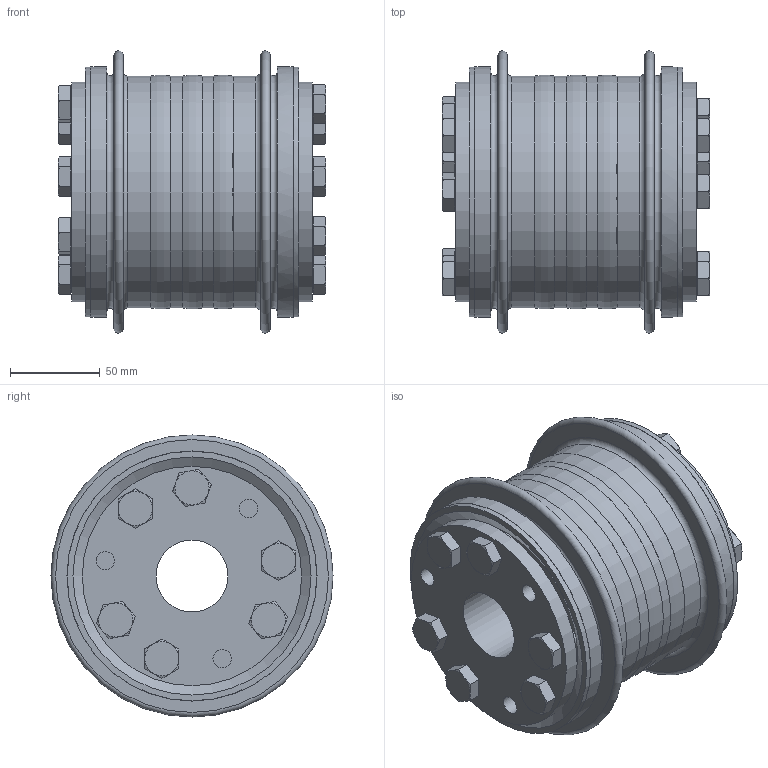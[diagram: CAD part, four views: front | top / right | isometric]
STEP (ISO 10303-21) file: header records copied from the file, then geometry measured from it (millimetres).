
FILE_DESCRIPTION( ( 'Unknown' ), '1' );
FILE_NAME( 'F:/JAKOB-STEP+IGES-Dateien/STEP-Dateien/KSS/KSS 850.stp', 'Unknown', ( 'Unknown' ), ( 'Unknown' ), 'PSStep 10.1', 'Unknown', ' ' );
FILE_SCHEMA( ( 'AUTOMOTIVE_DESIGN { 1 0 10303 214 1 1 1 1 }' ) );
Length unit declared in the file: millimetre
Products named in the file (1): 20113525
Bounding box: 149 x 157 x 157 mm (x, y, z)
Volume: 1037897.6 mm3; surface area: 282361.9 mm2
Topology: 1 solids, 1 shells, 326 faces, 766 edges, 498 vertices
Faces by surface type: plane 154, cone 78, cylinder 74, torus 20
Full cylindrical faces by diameter (mm): 10.2 x18, 12 x12, 12.5 x12, 17.2 x12, 40 x2, 79.35 x2, 122 x2, 123 x2, 127.8 x4, 129 x4, 139 x2, 139.2 x2
Entity records: 11664 total; most frequent: CARTESIAN_POINT 2427, DIRECTION 1362, ORIENTED_EDGE 1188, AXIS2_PLACEMENT_3D 609, EDGE_CURVE 594, EDGE_LOOP 520, VERTEX_POINT 426, FACE_OUTER_BOUND 420
